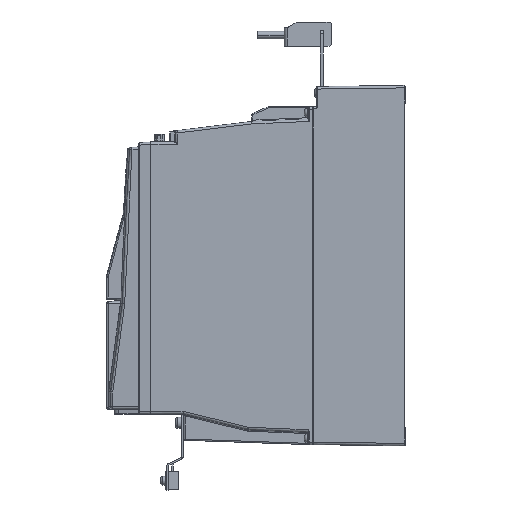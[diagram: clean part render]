
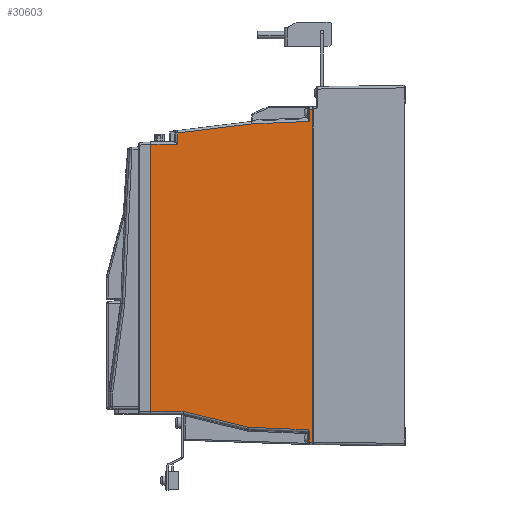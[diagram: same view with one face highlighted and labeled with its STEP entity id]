
A CAD part, left-side view. The second image highlights one B-rep face of the part: STEP entity #30603.
In plain terms, the highlighted planar face has unit normal (-1, 0, 0).
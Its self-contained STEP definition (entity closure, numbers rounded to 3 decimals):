
#228 = DIRECTION ( 'NONE',  ( 0., -0.972, -0.236 ) ) ;
#1091 = CARTESIAN_POINT ( 'NONE',  ( -64., 76.5, -19. ) ) ;
#1297 = ORIENTED_EDGE ( 'NONE', *, *, #23715, .T. ) ;
#1367 = DIRECTION ( 'NONE',  ( 0., 0., -1. ) ) ;
#1857 = CARTESIAN_POINT ( 'NONE',  ( -64., 204.2, -262.5 ) ) ;
#1934 = DIRECTION ( 'NONE',  ( 0., -1., 0. ) ) ;
#1998 = CARTESIAN_POINT ( 'NONE',  ( -64., 77.5, -277.013 ) ) ;
#2515 = DIRECTION ( 'NONE',  ( 0., 1., 0. ) ) ;
#2856 = VECTOR ( 'NONE', #2515, 1000. ) ;
#3046 = FACE_OUTER_BOUND ( 'NONE', #35686, .T. ) ;
#3244 = CARTESIAN_POINT ( 'NONE',  ( -64., 76.92, -277.036 ) ) ;
#3426 = ORIENTED_EDGE ( 'NONE', *, *, #9183, .T. ) ;
#3489 = LINE ( 'NONE', #24731, #27147 ) ;
#4466 = LINE ( 'NONE', #16994, #49045 ) ;
#4766 = EDGE_CURVE ( 'NONE', #8400, #44435, #17991, .T. ) ;
#4778 = VECTOR ( 'NONE', #4908, 1000. ) ;
#4908 = DIRECTION ( 'NONE',  ( 0., 0.993, -0.121 ) ) ;
#5122 = CARTESIAN_POINT ( 'NONE',  ( -64., 182.5, -38.271 ) ) ;
#5394 = ORIENTED_EDGE ( 'NONE', *, *, #8087, .T. ) ;
#5425 = LINE ( 'NONE', #38662, #45191 ) ;
#5541 = CARTESIAN_POINT ( 'NONE',  ( -64., 202.8, -19. ) ) ;
#5706 = EDGE_CURVE ( 'NONE', #44435, #29993, #48245, .T. ) ;
#7534 = VERTEX_POINT ( 'NONE', #37761 ) ;
#8087 = EDGE_CURVE ( 'NONE', #39508, #45914, #27318, .T. ) ;
#8400 = VERTEX_POINT ( 'NONE', #26717 ) ;
#8839 = CARTESIAN_POINT ( 'NONE',  ( -64., 204.2, -262.5 ) ) ;
#9183 = EDGE_CURVE ( 'NONE', #26803, #36715, #13704, .T. ) ;
#9354 = DIRECTION ( 'NONE',  ( 0., 1., 0. ) ) ;
#10120 = VECTOR ( 'NONE', #9354, 1000. ) ;
#10280 = EDGE_CURVE ( 'NONE', #7534, #8400, #15610, .T. ) ;
#10439 = CARTESIAN_POINT ( 'NONE',  ( -64., 213.846, -34.952 ) ) ;
#10923 = CARTESIAN_POINT ( 'NONE',  ( -64., 202.8, -47.5 ) ) ;
#11693 = CARTESIAN_POINT ( 'NONE',  ( -64., 125.725, -275.044 ) ) ;
#11979 = DIRECTION ( 'NONE',  ( 0., 0., -1. ) ) ;
#11980 = EDGE_CURVE ( 'NONE', #29993, #37154, #15562, .T. ) ;
#12752 = ORIENTED_EDGE ( 'NONE', *, *, #11980, .T. ) ;
#13336 = CARTESIAN_POINT ( 'NONE',  ( -64., 232.631, -44.384 ) ) ;
#13704 = LINE ( 'NONE', #5541, #10120 ) ;
#13780 = B_SPLINE_CURVE_WITH_KNOTS ( 'NONE', 3,
 ( #1998, #31397, #27041, #47998, #18874, #51282, #48263, #43646 ),
 .UNSPECIFIED., .F., .F.,
 ( 4, 2, 2, 4 ),
 ( 0., 0.001, 0.002, 0.002 ),
 .UNSPECIFIED. ) ;
#13807 = VERTEX_POINT ( 'NONE', #11693 ) ;
#15562 = LINE ( 'NONE', #10923, #2856 ) ;
#15610 = LINE ( 'NONE', #10439, #42298 ) ;
#15765 = VECTOR ( 'NONE', #48974, 1000. ) ;
#16994 = CARTESIAN_POINT ( 'NONE',  ( -64., 76.5, -289. ) ) ;
#17991 = LINE ( 'NONE', #13336, #4778 ) ;
#18559 = CARTESIAN_POINT ( 'NONE',  ( -64., 73.67, -19. ) ) ;
#18811 = VECTOR ( 'NONE', #52920, 1000. ) ;
#18874 = CARTESIAN_POINT ( 'NONE',  ( -64., 76.652, -278.27 ) ) ;
#19815 = ORIENTED_EDGE ( 'NONE', *, *, #4766, .T. ) ;
#19988 = EDGE_CURVE ( 'NONE', #36715, #7534, #4466, .T. ) ;
#20166 = AXIS2_PLACEMENT_3D ( 'NONE', #32186, #36794, #11979 ) ;
#20519 = VECTOR ( 'NONE', #31951, 1000. ) ;
#20805 = DIRECTION ( 'NONE',  ( 0., 0., -1. ) ) ;
#20910 = VECTOR ( 'NONE', #1934, 1000. ) ;
#22358 = CARTESIAN_POINT ( 'NONE',  ( -64., 202.8, -287. ) ) ;
#23715 = EDGE_CURVE ( 'NONE', #25996, #25867, #13780, .T. ) ;
#24147 = EDGE_CURVE ( 'NONE', #42965, #38668, #30530, .T. ) ;
#24731 = CARTESIAN_POINT ( 'NONE',  ( -64., 125.536, -275.09 ) ) ;
#25867 = VERTEX_POINT ( 'NONE', #50767 ) ;
#25996 = VERTEX_POINT ( 'NONE', #50407 ) ;
#26359 = DIRECTION ( 'NONE',  ( 0., 0., 1. ) ) ;
#26717 = CARTESIAN_POINT ( 'NONE',  ( -64., 122.835, -30.995 ) ) ;
#26803 = VERTEX_POINT ( 'NONE', #18559 ) ;
#27041 = CARTESIAN_POINT ( 'NONE',  ( -64., 77.016, -277.606 ) ) ;
#27147 = VECTOR ( 'NONE', #228, 1000. ) ;
#27318 = LINE ( 'NONE', #40647, #20519 ) ;
#27562 = ORIENTED_EDGE ( 'NONE', *, *, #10280, .T. ) ;
#27802 = ORIENTED_EDGE ( 'NONE', *, *, #53275, .T. ) ;
#28095 = EDGE_CURVE ( 'NONE', #25867, #42965, #5425, .T. ) ;
#29679 = EDGE_CURVE ( 'NONE', #13807, #25996, #51977, .T. ) ;
#29993 = VERTEX_POINT ( 'NONE', #37799 ) ;
#30094 = VECTOR ( 'NONE', #31108, 1000. ) ;
#30530 = LINE ( 'NONE', #22358, #20910 ) ;
#30603 = ADVANCED_FACE ( 'NONE', ( #3046 ), #44969, .F. ) ;
#30712 = LINE ( 'NONE', #1857, #31476 ) ;
#31108 = DIRECTION ( 'NONE',  ( 0., 0., -1. ) ) ;
#31194 = EDGE_CURVE ( 'NONE', #39508, #37154, #30712, .T. ) ;
#31397 = CARTESIAN_POINT ( 'NONE',  ( -64., 77.259, -277.308 ) ) ;
#31433 = LINE ( 'NONE', #52108, #18811 ) ;
#31476 = VECTOR ( 'NONE', #26359, 1000. ) ;
#31951 = DIRECTION ( 'NONE',  ( 0., -1., 0. ) ) ;
#32186 = CARTESIAN_POINT ( 'NONE',  ( -64., 202.8, -289. ) ) ;
#35258 = DIRECTION ( 'NONE',  ( 0., 0.999, -0.043 ) ) ;
#35686 = EDGE_LOOP ( 'NONE', ( #50896, #52763, #3426, #48089, #27562, #19815, #53312, #12752, #44064, #5394, #27802, #50292, #1297, #48459 ) ) ;
#35996 = CARTESIAN_POINT ( 'NONE',  ( -64., 182.5, -289. ) ) ;
#36715 = VERTEX_POINT ( 'NONE', #1091 ) ;
#36794 = DIRECTION ( 'NONE',  ( 1., 0., 0. ) ) ;
#37154 = VERTEX_POINT ( 'NONE', #47308 ) ;
#37761 = CARTESIAN_POINT ( 'NONE',  ( -64., 76.5, -28.98 ) ) ;
#37799 = CARTESIAN_POINT ( 'NONE',  ( -64., 182.5, -47.5 ) ) ;
#38662 = CARTESIAN_POINT ( 'NONE',  ( -64., 76.5, -289. ) ) ;
#38668 = VERTEX_POINT ( 'NONE', #52804 ) ;
#39508 = VERTEX_POINT ( 'NONE', #8839 ) ;
#40647 = CARTESIAN_POINT ( 'NONE',  ( -64., 202.8, -262.5 ) ) ;
#41871 = EDGE_CURVE ( 'NONE', #26803, #38668, #31433, .T. ) ;
#42298 = VECTOR ( 'NONE', #35258, 1000. ) ;
#42965 = VERTEX_POINT ( 'NONE', #50400 ) ;
#43646 = CARTESIAN_POINT ( 'NONE',  ( -64., 76.5, -279.014 ) ) ;
#44064 = ORIENTED_EDGE ( 'NONE', *, *, #31194, .F. ) ;
#44435 = VERTEX_POINT ( 'NONE', #5122 ) ;
#44969 = PLANE ( 'NONE',  #20166 ) ;
#45191 = VECTOR ( 'NONE', #1367, 1000. ) ;
#45914 = VERTEX_POINT ( 'NONE', #48629 ) ;
#47308 = CARTESIAN_POINT ( 'NONE',  ( -64., 204.2, -47.5 ) ) ;
#47998 = CARTESIAN_POINT ( 'NONE',  ( -64., 76.733, -278.099 ) ) ;
#48089 = ORIENTED_EDGE ( 'NONE', *, *, #19988, .T. ) ;
#48245 = LINE ( 'NONE', #35996, #30094 ) ;
#48263 = CARTESIAN_POINT ( 'NONE',  ( -64., 76.5, -278.822 ) ) ;
#48459 = ORIENTED_EDGE ( 'NONE', *, *, #28095, .T. ) ;
#48629 = CARTESIAN_POINT ( 'NONE',  ( -64., 177.407, -262.5 ) ) ;
#48974 = DIRECTION ( 'NONE',  ( 0., -0.999, -0.041 ) ) ;
#49045 = VECTOR ( 'NONE', #20805, 1000. ) ;
#50292 = ORIENTED_EDGE ( 'NONE', *, *, #29679, .T. ) ;
#50400 = CARTESIAN_POINT ( 'NONE',  ( -64., 76.5, -287. ) ) ;
#50407 = CARTESIAN_POINT ( 'NONE',  ( -64., 77.5, -277.013 ) ) ;
#50767 = CARTESIAN_POINT ( 'NONE',  ( -64., 76.5, -279.014 ) ) ;
#50896 = ORIENTED_EDGE ( 'NONE', *, *, #24147, .T. ) ;
#51282 = CARTESIAN_POINT ( 'NONE',  ( -64., 76.535, -278.634 ) ) ;
#51977 = LINE ( 'NONE', #3244, #15765 ) ;
#52108 = CARTESIAN_POINT ( 'NONE',  ( -64., 73.67, -19. ) ) ;
#52763 = ORIENTED_EDGE ( 'NONE', *, *, #41871, .F. ) ;
#52804 = CARTESIAN_POINT ( 'NONE',  ( -64., 73.67, -287. ) ) ;
#52920 = DIRECTION ( 'NONE',  ( 0., 0., -1. ) ) ;
#53275 = EDGE_CURVE ( 'NONE', #45914, #13807, #3489, .T. ) ;
#53312 = ORIENTED_EDGE ( 'NONE', *, *, #5706, .T. ) ;
